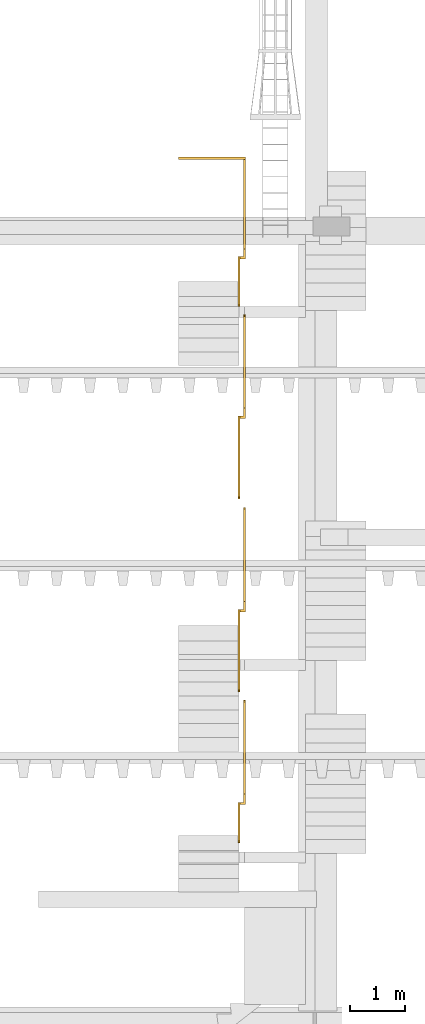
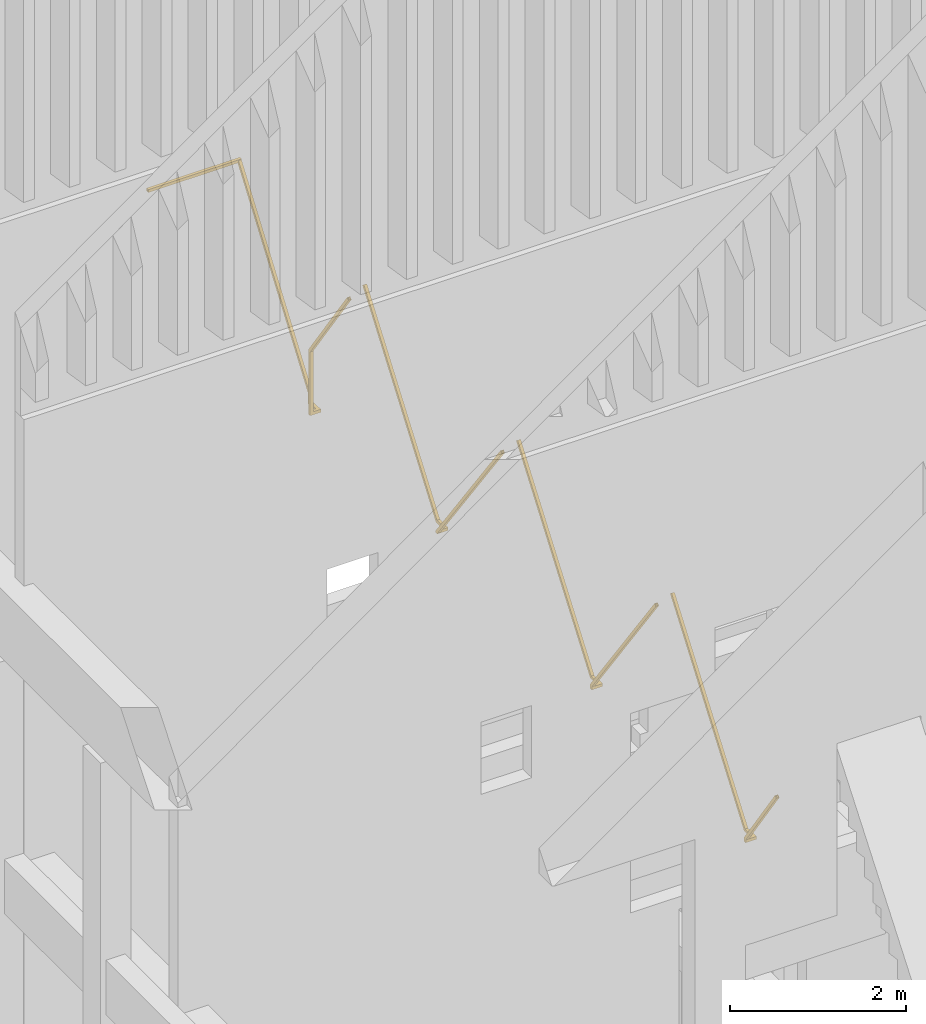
# One storey, part 6 of 15: 5 railings.
"""IFC2X3 building model written with IfcOpenShell, lengths in metres."""

from ifc_helpers import new_model, entity, si_unit, converted_unit, derived_unit, money_unit, direction, frame, origin_with_axes, place, context, subcontext, project, spatial, faceted_brep, material, type_object, element, save


model = new_model("IFC2X3")

# Units and contexts
model_context = context("Model", 3, precision=1e-05, world=origin_with_axes(), true_north=direction((0.0, 1.0)))
body_context = subcontext(model_context, "Body", "Model", "MODEL_VIEW", scale=1.0)
ifc_project = project(units=[si_unit("LENGTHUNIT", "METRE"), si_unit("AREAUNIT", "SQUARE_METRE"), si_unit("VOLUMEUNIT", "CUBIC_METRE"), si_unit("ABSORBEDDOSEUNIT", "GRAY"), si_unit("AMOUNTOFSUBSTANCEUNIT", "MOLE"), si_unit("DOSEEQUIVALENTUNIT", "SIEVERT"), si_unit("ELECTRICCAPACITANCEUNIT", "FARAD"), si_unit("ELECTRICCHARGEUNIT", "COULOMB"), si_unit("ELECTRICCONDUCTANCEUNIT", "SIEMENS"), si_unit("ELECTRICCURRENTUNIT", "AMPERE"), si_unit("ELECTRICRESISTANCEUNIT", "OHM"), si_unit("ELECTRICVOLTAGEUNIT", "VOLT"), si_unit("ENERGYUNIT", "JOULE"), si_unit("FORCEUNIT", "NEWTON"), si_unit("FREQUENCYUNIT", "HERTZ"), si_unit("ILLUMINANCEUNIT", "LUX"), si_unit("INDUCTANCEUNIT", "HENRY"), si_unit("LUMINOUSFLUXUNIT", "LUMEN"), si_unit("LUMINOUSINTENSITYUNIT", "CANDELA"), si_unit("MAGNETICFLUXDENSITYUNIT", "TESLA"), si_unit("MAGNETICFLUXUNIT", "WEBER"), si_unit("MASSUNIT", "GRAM"), converted_unit("PLANEANGLEUNIT", "degree", entity("IfcReal", 0.0174532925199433), si_unit("PLANEANGLEUNIT", "RADIAN"), dimensions=[0, 0, 0, 0, 0, 0, 0]), si_unit("POWERUNIT", "WATT"), si_unit("PRESSUREUNIT", "PASCAL"), si_unit("RADIOACTIVITYUNIT", "BECQUEREL"), si_unit("SOLIDANGLEUNIT", "STERADIAN"), si_unit("THERMODYNAMICTEMPERATUREUNIT", "KELVIN"), si_unit("TIMEUNIT", "SECOND"), derived_unit("ACCELERATIONUNIT", [(si_unit("LENGTHUNIT", "METRE"), 1), (si_unit("TIMEUNIT", "SECOND"), -2)]), derived_unit("ANGULARVELOCITYUNIT", [(converted_unit("PLANEANGLEUNIT", "degree", entity("IfcReal", 0.0174532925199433), si_unit("PLANEANGLEUNIT", "RADIAN"), dimensions=[0, 0, 0, 0, 0, 0, 0]), 1), (si_unit("TIMEUNIT", "SECOND"), -1)]), derived_unit("CURVATUREUNIT", [(converted_unit("PLANEANGLEUNIT", "degree", entity("IfcReal", 0.0174532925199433), si_unit("PLANEANGLEUNIT", "RADIAN"), dimensions=[0, 0, 0, 0, 0, 0, 0]), 1), (si_unit("LENGTHUNIT", "METRE"), -1)]), derived_unit("DYNAMICVISCOSITYUNIT", [(si_unit("PRESSUREUNIT", "PASCAL"), 1), (si_unit("TIMEUNIT", "SECOND"), 1)]), derived_unit("HEATFLUXDENSITYUNIT", [(si_unit("POWERUNIT", "WATT"), 1), (si_unit("LENGTHUNIT", "METRE"), -2)]), derived_unit("HEATINGVALUEUNIT", [(si_unit("ENERGYUNIT", "JOULE"), 1), (si_unit("MASSUNIT", "GRAM"), -1)]), derived_unit("INTEGERCOUNTRATEUNIT", [(si_unit("TIMEUNIT", "SECOND"), -1)]), derived_unit("IONCONCENTRATIONUNIT", [(si_unit("MASSUNIT", "GRAM"), 1), (si_unit("VOLUMEUNIT", "CUBIC_METRE"), -1)]), derived_unit("ISOTHERMALMOISTURECAPACITYUNIT", [(si_unit("VOLUMEUNIT", "CUBIC_METRE"), 1), (si_unit("MASSUNIT", "GRAM"), -1)]), derived_unit("KINEMATICVISCOSITYUNIT", [(si_unit("AREAUNIT", "SQUARE_METRE"), 1), (si_unit("TIMEUNIT", "SECOND"), -1)]), derived_unit("LINEARFORCEUNIT", [(si_unit("FORCEUNIT", "NEWTON"), 1), (si_unit("LENGTHUNIT", "METRE"), -1)]), derived_unit("LINEARMOMENTUNIT", [(si_unit("FORCEUNIT", "NEWTON"), 1), (si_unit("LENGTHUNIT", "METRE"), -1)]), derived_unit("LINEARSTIFFNESSUNIT", [(si_unit("FORCEUNIT", "NEWTON"), 1), (si_unit("LENGTHUNIT", "METRE"), -1)]), derived_unit("LINEARVELOCITYUNIT", [(si_unit("LENGTHUNIT", "METRE"), 1), (si_unit("TIMEUNIT", "SECOND"), -1)]), derived_unit("LUMINOUSINTENSITYDISTRIBUTIONUNIT", [(si_unit("LUMINOUSINTENSITYUNIT", "CANDELA"), 1), (si_unit("LUMINOUSFLUXUNIT", "LUMEN"), -1)]), derived_unit("MASSDENSITYUNIT", [(si_unit("MASSUNIT", "GRAM"), 1), (si_unit("VOLUMEUNIT", "CUBIC_METRE"), -1)]), derived_unit("MASSFLOWRATEUNIT", [(si_unit("MASSUNIT", "GRAM"), 1), (si_unit("TIMEUNIT", "SECOND"), -1)]), derived_unit("MASSPERLENGTHUNIT", [(si_unit("MASSUNIT", "GRAM"), 1), (si_unit("LENGTHUNIT", "METRE"), -1)]), derived_unit("MODULUSOFELASTICITYUNIT", [(si_unit("FORCEUNIT", "NEWTON"), 1), (si_unit("AREAUNIT", "SQUARE_METRE"), -1)]), derived_unit("MODULUSOFLINEARSUBGRADEREACTIONUNIT", [(si_unit("FORCEUNIT", "NEWTON"), 1), (si_unit("LENGTHUNIT", "METRE"), -2)]), derived_unit("MODULUSOFROTATIONALSUBGRADEREACTIONUNIT", [(si_unit("FORCEUNIT", "NEWTON"), 1), (si_unit("LENGTHUNIT", "METRE"), 1)]), derived_unit("MODULUSOFSUBGRADEREACTIONUNIT", [(si_unit("FORCEUNIT", "NEWTON"), 1), (si_unit("VOLUMEUNIT", "CUBIC_METRE"), -1)]), derived_unit("MOISTUREDIFFUSIVITYUNIT", [(si_unit("VOLUMEUNIT", "CUBIC_METRE"), 1), (si_unit("TIMEUNIT", "SECOND"), -1)]), derived_unit("MOLECULARWEIGHTUNIT", [(si_unit("MASSUNIT", "GRAM"), 1), (si_unit("AMOUNTOFSUBSTANCEUNIT", "MOLE"), -1)]), derived_unit("PLANARFORCEUNIT", [(si_unit("FORCEUNIT", "NEWTON"), 1), (si_unit("LENGTHUNIT", "METRE"), -2)]), derived_unit("ROTATIONALFREQUENCYUNIT", [(si_unit("TIMEUNIT", "SECOND"), -1)]), derived_unit("ROTATIONALMASSUNIT", [(si_unit("MASSUNIT", "GRAM"), 1), (si_unit("LENGTHUNIT", "METRE"), 2)]), derived_unit("ROTATIONALSTIFFNESSUNIT", [(si_unit("FORCEUNIT", "NEWTON"), 1), (si_unit("LENGTHUNIT", "METRE"), 1), (converted_unit("PLANEANGLEUNIT", "degree", entity("IfcReal", 0.0174532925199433), si_unit("PLANEANGLEUNIT", "RADIAN"), dimensions=[0, 0, 0, 0, 0, 0, 0]), -1)]), derived_unit("SECTIONAREAINTEGRALUNIT", [(si_unit("LENGTHUNIT", "METRE"), 5)]), derived_unit("SECTIONMODULUSUNIT", [(si_unit("LENGTHUNIT", "METRE"), 3)]), derived_unit("SHEARMODULUSUNIT", [(si_unit("FORCEUNIT", "NEWTON"), 1), (si_unit("AREAUNIT", "SQUARE_METRE"), -1)]), derived_unit("SOUNDPOWERUNIT", [(si_unit("ENERGYUNIT", "JOULE"), 1), (si_unit("TIMEUNIT", "SECOND"), -1)]), derived_unit("SPECIFICHEATCAPACITYUNIT", [(si_unit("FORCEUNIT", "NEWTON"), 1), (si_unit("MASSUNIT", "GRAM"), -1), (si_unit("THERMODYNAMICTEMPERATUREUNIT", "KELVIN"), -1)]), derived_unit("TEMPERATUREGRADIENTUNIT", [(si_unit("THERMODYNAMICTEMPERATUREUNIT", "KELVIN"), 1), (si_unit("LENGTHUNIT", "METRE"), -1)]), derived_unit("THERMALADMITTANCEUNIT", [(si_unit("POWERUNIT", "WATT"), 1), (si_unit("AREAUNIT", "SQUARE_METRE"), -1), (si_unit("THERMODYNAMICTEMPERATUREUNIT", "KELVIN"), -1)]), derived_unit("THERMALCONDUCTANCEUNIT", [(si_unit("POWERUNIT", "WATT"), 1), (si_unit("LENGTHUNIT", "METRE"), -1), (si_unit("THERMODYNAMICTEMPERATUREUNIT", "KELVIN"), -1)]), derived_unit("THERMALEXPANSIONCOEFFICIENTUNIT", [(si_unit("THERMODYNAMICTEMPERATUREUNIT", "KELVIN"), -1)]), derived_unit("THERMALRESISTANCEUNIT", [(si_unit("AREAUNIT", "SQUARE_METRE"), 1), (si_unit("POWERUNIT", "WATT"), -1)]), derived_unit("THERMALTRANSMITTANCEUNIT", [(si_unit("POWERUNIT", "WATT"), 1), (si_unit("AREAUNIT", "SQUARE_METRE"), -1), (si_unit("THERMODYNAMICTEMPERATUREUNIT", "KELVIN"), -1)]), derived_unit("TORQUEUNIT", [(si_unit("FORCEUNIT", "NEWTON"), 1), (si_unit("LENGTHUNIT", "METRE"), 1)]), derived_unit("VAPORPERMEABILITYUNIT", [(si_unit("MASSUNIT", "GRAM"), 1), (si_unit("TIMEUNIT", "SECOND"), -1)]), derived_unit("VOLUMETRICFLOWRATEUNIT", [(si_unit("VOLUMEUNIT", "CUBIC_METRE"), 1), (si_unit("TIMEUNIT", "SECOND"), -1)]), derived_unit("WARPINGCONSTANTUNIT", [(si_unit("LENGTHUNIT", "METRE"), 6)]), derived_unit("WARPINGMOMENTUNIT", [(si_unit("FORCEUNIT", "NEWTON"), 1), (si_unit("LENGTHUNIT", "METRE"), 2)]), money_unit("GBP")], contexts=[model_context])

# Site, building, storey
site_placement = place(None, origin_with_axes())
site = spatial("IfcSite", under=ifc_project, at=site_placement, Name="Site", CompositionType="ELEMENT")
building_placement = place(site_placement, origin_with_axes())
building = spatial("IfcBuilding", under=site, at=building_placement, Name="Building01", CompositionType="ELEMENT")
storey_placement = place(building_placement, origin_with_axes())
storey = spatial("IfcBuildingStorey", under=building, at=storey_placement, Name="GF", CompositionType="ELEMENT", Elevation=0.0)

# Railings
ifc_material = material(Name="A_BSUK_Steel_Miscellaneous")
railing_type_1 = type_object("IfcRailingType", Name="A-Handrail-900mm", PredefinedType="NOTDEFINED")
railing_1_placement = place(storey_placement, frame((7.55, 8.64, 14.609584), z_axis=(0.0, 1.0, 0.0), x_axis=(0.0, 0.0, 1.0)))
element("IfcRailing", 1, at=railing_1_placement, inside=storey, type_object=railing_type_1, material=ifc_material, Name="A-Handrail-900mm", ObjectType="A-Handrail-900mm", PredefinedType="HANDRAIL", context=body_context, shape_type="Brep", body=[
    faceted_brep([(-0.726206, -0.02, 0.312846), (-0.75, -0.02, 0.345), (-0.75, 0.02, 0.345), (-0.726206, 0.02, 0.312846), (-0.728586, -0.016, 0.316062), (-0.728586, 0.016, 0.316062), (-0.747621, 0.016, 0.341785), (-0.747621, -0.016, 0.341785), (0.023794, 0.02, 0.867846), (0.0, 0.02, 0.9), (0.0, -0.02, 0.9), (0.023794, -0.02, 0.867846), (0.021414, -0.016, 0.871062), (0.002379, -0.016, 0.896785), (0.002379, 0.016, 0.896785), (0.021414, 0.016, 0.871062)], [[[0, 1, 2, 3], [4, 5, 6, 7]], [[8, 9, 10, 11], [12, 13, 14, 15]], [[11, 0, 3, 8]], [[10, 1, 0, 11]], [[9, 2, 1, 10]], [[8, 3, 2, 9]], [[15, 5, 4, 12]], [[12, 4, 7, 13]], [[13, 7, 6, 14]], [[14, 6, 5, 15]]]),
    faceted_brep([(-1.476206, -0.02, -0.242154), (-1.5, -0.02, -0.21), (-1.5, 0.02, -0.21), (-1.476206, 0.02, -0.242154), (-1.478586, -0.016, -0.238938), (-1.478586, 0.016, -0.238938), (-1.497621, 0.016, -0.213215), (-1.497621, -0.016, -0.213215), (-0.726206, 0.02, 0.312846), (-0.75, 0.02, 0.345), (-0.75, -0.02, 0.345), (-0.726206, -0.02, 0.312846), (-0.728586, -0.016, 0.316062), (-0.747621, -0.016, 0.341785), (-0.747621, 0.016, 0.341785), (-0.728586, 0.016, 0.316062)], [[[0, 1, 2, 3], [4, 5, 6, 7]], [[8, 9, 10, 11], [12, 13, 14, 15]], [[11, 0, 3, 8]], [[10, 1, 0, 11]], [[9, 2, 1, 10]], [[8, 3, 2, 9]], [[15, 5, 4, 12]], [[12, 4, 7, 13]], [[13, 7, 6, 14]], [[14, 6, 5, 15]]]),
    faceted_brep([(-1.476206, 0.02, -0.242154), (-1.5, 0.02, -0.21), (-1.5, -0.02, -0.21), (-1.476206, -0.02, -0.242154), (-1.478586, -0.016, -0.238938), (-1.497621, -0.016, -0.213215), (-1.497621, 0.016, -0.213215), (-1.478586, 0.016, -0.238938), (-2.23, -0.02, -0.799961), (-2.23, 0.02, -0.799961), (-2.27, -0.02, -0.7798), (-2.27, 0.02, -0.7798), (-2.234, -0.016, -0.797945), (-2.234, 0.016, -0.797945), (-2.266, -0.016, -0.781816), (-2.266, 0.016, -0.781816)], [[[0, 1, 2, 3], [4, 5, 6, 7]], [[8, 9, 0, 3]], [[10, 8, 3, 2]], [[11, 10, 2, 1]], [[9, 11, 1, 0]], [[12, 4, 7, 13]], [[14, 5, 4, 12]], [[15, 6, 5, 14]], [[13, 7, 6, 15]], [[8, 10, 11, 9], [12, 13, 15, 14]]]),
    faceted_brep([(-2.27, 0.02, -0.7798), (-2.23, 0.02, -0.799961), (-2.23, 0.02, -0.99), (-2.27, 0.02, -0.99), (-2.23, -0.02, -0.95), (-2.23, -0.02, -0.799961), (-2.27, -0.02, -0.95), (-2.27, -0.02, -0.7798), (-2.234, 0.016, -0.986), (-2.234, 0.016, -0.797945), (-2.266, 0.016, -0.781816), (-2.266, 0.016, -0.986), (-2.234, -0.016, -0.954), (-2.234, -0.016, -0.797945), (-2.266, -0.016, -0.954), (-2.266, -0.016, -0.781816)], [[[0, 1, 2, 3]], [[4, 2, 1, 5]], [[6, 4, 5, 7]], [[3, 6, 7, 0]], [[8, 9, 10, 11]], [[12, 13, 9, 8]], [[14, 15, 13, 12]], [[11, 10, 15, 14]], [[0, 7, 5, 1], [10, 9, 13, 15]], [[2, 4, 6, 3], [8, 11, 14, 12]]]),
    faceted_brep([(-2.23, -0.08, -0.99), (-2.27, -0.12, -0.99), (-2.27, 0.02, -0.99), (-2.23, 0.02, -0.99), (-2.23, -0.08, -0.95), (-2.23, -0.02, -0.95), (-2.27, -0.12, -0.95), (-2.27, -0.02, -0.95), (-2.234, -0.084, -0.986), (-2.234, 0.016, -0.986), (-2.266, 0.016, -0.986), (-2.266, -0.116, -0.986), (-2.234, -0.084, -0.954), (-2.234, -0.016, -0.954), (-2.266, -0.116, -0.954), (-2.266, -0.016, -0.954)], [[[0, 1, 2, 3]], [[4, 0, 3, 5]], [[6, 4, 5, 7]], [[7, 2, 1, 6]], [[8, 9, 10, 11]], [[12, 13, 9, 8]], [[14, 15, 13, 12]], [[11, 10, 15, 14]], [[2, 7, 5, 3], [10, 9, 13, 15]], [[0, 4, 6, 1], [8, 11, 14, 12]]]),
    faceted_brep([(-2.224951, -0.08, -0.99), (-2.224951, -0.12, -0.99), (-2.27, -0.12, -0.99), (-2.23, -0.08, -0.99), (-2.21192, -0.08, -0.95), (-2.23, -0.08, -0.95), (-2.21192, -0.12, -0.95), (-2.27, -0.12, -0.95), (-2.223648, -0.084, -0.986), (-2.234, -0.084, -0.986), (-2.266, -0.116, -0.986), (-2.223648, -0.116, -0.986), (-2.213223, -0.084, -0.954), (-2.234, -0.084, -0.954), (-2.213223, -0.116, -0.954), (-2.266, -0.116, -0.954)], [[[0, 1, 2, 3]], [[4, 0, 3, 5]], [[6, 4, 5, 7]], [[1, 6, 7, 2]], [[8, 9, 10, 11]], [[12, 13, 9, 8]], [[14, 15, 13, 12]], [[11, 10, 15, 14]], [[2, 7, 5, 3], [10, 9, 13, 15]], [[0, 4, 6, 1], [8, 11, 14, 12]]]),
    faceted_brep([(-0.235481, -0.079988, -2.440102), (-0.21192, -0.079987, -2.407778), (-0.21192, -0.119987, -2.407778), (-0.235481, -0.119988, -2.440102), (-0.233125, -0.083988, -2.43687), (-0.233125, -0.115988, -2.43687), (-0.214276, -0.115987, -2.41101), (-0.214276, -0.083987, -2.41101), (-2.224951, -0.12, -0.99), (-2.224951, -0.08, -0.99), (-2.21192, -0.08, -0.95), (-2.21192, -0.12, -0.95), (-2.223648, -0.116, -0.986), (-2.223648, -0.084, -0.986), (-2.213223, -0.084, -0.954), (-2.213223, -0.116, -0.954)], [[[0, 1, 2, 3], [4, 5, 6, 7]], [[8, 9, 0, 3]], [[9, 10, 1, 0]], [[10, 11, 2, 1]], [[11, 8, 3, 2]], [[12, 5, 4, 13]], [[13, 4, 7, 14]], [[14, 7, 6, 15]], [[15, 6, 5, 12]], [[8, 11, 10, 9], [12, 13, 14, 15]]]),
])
railing_2_placement = place(storey_placement, frame((7.55, 14.98, 14.65313), z_axis=(0.0, 1.0, 0.0), x_axis=(0.0, 0.0, 1.0)))
element("IfcRailing", 2, at=railing_2_placement, inside=storey, type_object=railing_type_1, material=ifc_material, Name="A-Handrail-900mm", ObjectType="A-Handrail-900mm", PredefinedType="HANDRAIL", context=body_context, shape_type="Brep", body=[
    faceted_brep([(-0.726628, -0.02, 0.327539), (-0.75, -0.02, 0.36), (-0.75, 0.02, 0.36), (-0.726628, 0.02, 0.327539), (-0.728965, -0.016, 0.330785), (-0.728965, 0.016, 0.330785), (-0.747663, 0.016, 0.356754), (-0.747663, -0.016, 0.356754), (0.023372, 0.02, 0.867539), (0.0, 0.02, 0.9), (0.0, -0.02, 0.9), (0.023372, -0.02, 0.867539), (0.021035, -0.016, 0.870785), (0.002337, -0.016, 0.896754), (0.002337, 0.016, 0.896754), (0.021035, 0.016, 0.870785)], [[[0, 1, 2, 3], [4, 5, 6, 7]], [[8, 9, 10, 11], [12, 13, 14, 15]], [[11, 0, 3, 8]], [[10, 1, 0, 11]], [[9, 2, 1, 10]], [[8, 3, 2, 9]], [[15, 5, 4, 12]], [[12, 4, 7, 13]], [[13, 7, 6, 14]], [[14, 6, 5, 15]]]),
    faceted_brep([(-1.476628, -0.02, -0.212461), (-1.5, -0.02, -0.18), (-1.5, 0.02, -0.18), (-1.476628, 0.02, -0.212461), (-1.478965, -0.016, -0.209215), (-1.478965, 0.016, -0.209215), (-1.497663, 0.016, -0.183246), (-1.497663, -0.016, -0.183246), (-0.726628, 0.02, 0.327539), (-0.75, 0.02, 0.36), (-0.75, -0.02, 0.36), (-0.726628, -0.02, 0.327539), (-0.728965, -0.016, 0.330785), (-0.747663, -0.016, 0.356754), (-0.747663, 0.016, 0.356754), (-0.728965, 0.016, 0.330785)], [[[0, 1, 2, 3], [4, 5, 6, 7]], [[8, 9, 10, 11], [12, 13, 14, 15]], [[11, 0, 3, 8]], [[10, 1, 0, 11]], [[9, 2, 1, 10]], [[8, 3, 2, 9]], [[15, 5, 4, 12]], [[12, 4, 7, 13]], [[13, 7, 6, 14]], [[14, 6, 5, 15]]]),
    faceted_brep([(-1.476628, 0.02, -0.212461), (-1.5, 0.02, -0.18), (-1.5, -0.02, -0.18), (-1.476628, -0.02, -0.212461), (-1.478965, -0.016, -0.209215), (-1.497663, -0.016, -0.183246), (-1.497663, 0.016, -0.183246), (-1.478965, 0.016, -0.209215), (-2.237098, -0.02, -0.76), (-2.237098, 0.02, -0.76), (-2.25, -0.02, -0.72), (-2.25, 0.02, -0.72), (-2.238388, -0.016, -0.756), (-2.238388, 0.016, -0.756), (-2.24871, -0.016, -0.724), (-2.24871, 0.016, -0.724)], [[[0, 1, 2, 3], [4, 5, 6, 7]], [[8, 9, 0, 3]], [[10, 8, 3, 2]], [[11, 10, 2, 1]], [[9, 11, 1, 0]], [[12, 4, 7, 13]], [[14, 5, 4, 12]], [[15, 6, 5, 14]], [[13, 7, 6, 15]], [[8, 10, 11, 9], [12, 13, 15, 14]]]),
    faceted_brep([(-2.35233, -0.02, -0.76), (-2.35233, 0.02, -0.76), (-2.237098, 0.02, -0.76), (-2.237098, -0.02, -0.76), (-2.39233, -0.02, -0.72), (-2.25, -0.02, -0.72), (-2.25, 0.02, -0.72), (-2.39233, 0.02, -0.72), (-2.35633, -0.016, -0.756), (-2.238388, -0.016, -0.756), (-2.238388, 0.016, -0.756), (-2.35633, 0.016, -0.756), (-2.38833, -0.016, -0.724), (-2.24871, -0.016, -0.724), (-2.38833, 0.016, -0.724), (-2.24871, 0.016, -0.724)], [[[0, 1, 2, 3]], [[4, 0, 3, 5]], [[5, 6, 7, 4]], [[1, 7, 6, 2]], [[8, 9, 10, 11]], [[12, 13, 9, 8]], [[14, 15, 13, 12]], [[11, 10, 15, 14]], [[2, 6, 5, 3], [10, 9, 13, 15]], [[0, 4, 7, 1], [8, 11, 14, 12]]]),
    faceted_brep([(-2.39233, 0.02, -0.72), (-2.35233, 0.02, -0.76), (-2.35233, 0.02, -0.94), (-2.39233, 0.02, -0.94), (-2.35233, -0.02, -0.9), (-2.35233, -0.02, -0.76), (-2.39233, -0.02, -0.9), (-2.39233, -0.02, -0.72), (-2.35633, 0.016, -0.936), (-2.35633, 0.016, -0.756), (-2.38833, 0.016, -0.724), (-2.38833, 0.016, -0.936), (-2.35633, -0.016, -0.904), (-2.35633, -0.016, -0.756), (-2.38833, -0.016, -0.904), (-2.38833, -0.016, -0.724)], [[[0, 1, 2, 3]], [[4, 2, 1, 5]], [[6, 4, 5, 7]], [[3, 6, 7, 0]], [[8, 9, 10, 11]], [[12, 13, 9, 8]], [[14, 15, 13, 12]], [[11, 10, 15, 14]], [[0, 7, 5, 1], [10, 9, 13, 15]], [[2, 4, 6, 3], [8, 11, 14, 12]]]),
    faceted_brep([(-2.35233, -0.079237, -0.94), (-2.39233, -0.119237, -0.94), (-2.39233, 0.02, -0.94), (-2.35233, 0.02, -0.94), (-2.35233, -0.079237, -0.9), (-2.35233, -0.02, -0.9), (-2.39233, -0.119237, -0.9), (-2.39233, -0.02, -0.9), (-2.35633, -0.083237, -0.936), (-2.35633, 0.016, -0.936), (-2.38833, 0.016, -0.936), (-2.38833, -0.115237, -0.936), (-2.35633, -0.083237, -0.904), (-2.35633, -0.016, -0.904), (-2.38833, -0.115237, -0.904), (-2.38833, -0.016, -0.904)], [[[0, 1, 2, 3]], [[4, 0, 3, 5]], [[6, 4, 5, 7]], [[7, 2, 1, 6]], [[8, 9, 10, 11]], [[12, 13, 9, 8]], [[14, 15, 13, 12]], [[11, 10, 15, 14]], [[2, 7, 5, 3], [10, 9, 13, 15]], [[0, 4, 6, 1], [8, 11, 14, 12]]]),
    faceted_brep([(-1.50988, -0.079237, -0.94), (-1.50988, -0.119237, -0.94), (-2.39233, -0.119237, -0.94), (-2.35233, -0.079237, -0.94), (-1.497272, -0.079237, -0.9), (-2.35233, -0.079237, -0.9), (-2.39233, -0.119237, -0.9), (-1.497272, -0.119237, -0.9), (-1.50862, -0.083237, -0.936), (-2.35633, -0.083237, -0.936), (-2.38833, -0.115237, -0.936), (-1.50862, -0.115237, -0.936), (-1.498532, -0.083237, -0.904), (-2.35633, -0.083237, -0.904), (-1.498532, -0.115237, -0.904), (-2.38833, -0.115237, -0.904)], [[[0, 1, 2, 3]], [[4, 0, 3, 5]], [[5, 6, 7, 4]], [[1, 7, 6, 2]], [[8, 9, 10, 11]], [[12, 13, 9, 8]], [[14, 15, 13, 12]], [[11, 10, 15, 14]], [[2, 6, 5, 3], [10, 9, 13, 15]], [[0, 4, 7, 1], [8, 11, 14, 12]]]),
    faceted_brep([(-1.02021, -0.079237, -1.282769), (-0.997272, -0.079237, -1.25), (-0.997272, -0.119237, -1.25), (-1.02021, -0.119237, -1.282769), (-1.017916, -0.083237, -1.279492), (-1.017916, -0.115237, -1.279492), (-0.999565, -0.115237, -1.253277), (-0.999565, -0.083237, -1.253277), (-1.50988, -0.119237, -0.94), (-1.50988, -0.079237, -0.94), (-1.497272, -0.079237, -0.9), (-1.497272, -0.119237, -0.9), (-1.50862, -0.115237, -0.936), (-1.50862, -0.083237, -0.936), (-1.498532, -0.083237, -0.904), (-1.498532, -0.115237, -0.904)], [[[0, 1, 2, 3], [4, 5, 6, 7]], [[8, 9, 0, 3]], [[9, 10, 1, 0]], [[10, 11, 2, 1]], [[11, 8, 3, 2]], [[12, 5, 4, 13]], [[13, 4, 7, 14]], [[14, 7, 6, 15]], [[15, 6, 5, 12]], [[8, 11, 10, 9], [12, 13, 14, 15]]]),
    faceted_brep([(-0.27021, -0.079237, -1.807769), (-0.247272, -0.079237, -1.775), (-0.247272, -0.119237, -1.775), (-0.27021, -0.119237, -1.807769), (-0.267916, -0.083237, -1.804492), (-0.267916, -0.115237, -1.804492), (-0.249565, -0.115237, -1.778277), (-0.249565, -0.083237, -1.778277), (-1.02021, -0.119237, -1.282769), (-0.997272, -0.119237, -1.25), (-0.997272, -0.079237, -1.25), (-1.02021, -0.079237, -1.282769), (-1.017916, -0.083237, -1.279492), (-0.999565, -0.083237, -1.253277), (-0.999565, -0.115237, -1.253277), (-1.017916, -0.115237, -1.279492)], [[[0, 1, 2, 3], [4, 5, 6, 7]], [[8, 9, 10, 11], [12, 13, 14, 15]], [[11, 0, 3, 8]], [[10, 1, 0, 11]], [[9, 2, 1, 10]], [[8, 3, 2, 9]], [[15, 5, 4, 12]], [[12, 4, 7, 13]], [[13, 7, 6, 14]], [[14, 6, 5, 15]]]),
])
railing_3_placement = place(storey_placement, frame((7.55, 12.13, 14.647097), z_axis=(0.0, 1.0, 0.0), x_axis=(0.0, 0.0, 1.0)))
element("IfcRailing", 3, at=railing_3_placement, inside=storey, type_object=railing_type_1, material=ifc_material, Name="A-Handrail-900mm", ObjectType="A-Handrail-900mm", PredefinedType="HANDRAIL", context=body_context, shape_type="Brep", body=[
    faceted_brep([(0.023684, 0.021, 0.867765), (0.0, 0.021, 0.9), (0.0, -0.019, 0.9), (0.023684, -0.019, 0.867765), (0.021316, -0.015, 0.870989), (0.002368, -0.015, 0.896777), (0.002368, 0.017, 0.896777), (0.021316, 0.017, 0.870989), (-2.231, -0.019, -0.788834), (-2.231, 0.021, -0.788834), (-2.271, -0.019, -0.768587), (-2.271, 0.021, -0.768587), (-2.235, -0.015, -0.786809), (-2.235, 0.017, -0.786809), (-2.267, -0.015, -0.770612), (-2.267, 0.017, -0.770612)], [[[0, 1, 2, 3], [4, 5, 6, 7]], [[8, 9, 0, 3]], [[10, 8, 3, 2]], [[11, 10, 2, 1]], [[9, 11, 1, 0]], [[12, 4, 7, 13]], [[14, 5, 4, 12]], [[15, 6, 5, 14]], [[13, 7, 6, 15]], [[8, 10, 11, 9], [12, 13, 15, 14]]]),
    faceted_brep([(-2.271, 0.021, -0.768587), (-2.231, 0.021, -0.788834), (-2.231, 0.021, -0.976842), (-2.271, 0.021, -0.976842), (-2.231, -0.019, -0.936842), (-2.231, -0.019, -0.788834), (-2.271, -0.019, -0.936842), (-2.271, -0.019, -0.768587), (-2.235, 0.017, -0.972842), (-2.235, 0.017, -0.786809), (-2.267, 0.017, -0.770612), (-2.267, 0.017, -0.972842), (-2.235, -0.015, -0.940842), (-2.235, -0.015, -0.786809), (-2.267, -0.015, -0.940842), (-2.267, -0.015, -0.770612)], [[[0, 1, 2, 3]], [[4, 2, 1, 5]], [[6, 4, 5, 7]], [[3, 6, 7, 0]], [[8, 9, 10, 11]], [[12, 13, 9, 8]], [[14, 15, 13, 12]], [[11, 10, 15, 14]], [[0, 7, 5, 1], [10, 9, 13, 15]], [[2, 4, 6, 3], [8, 11, 14, 12]]]),
    faceted_brep([(-2.231, -0.081, -0.976842), (-2.271, -0.121, -0.976842), (-2.271, 0.021, -0.976842), (-2.231, 0.021, -0.976842), (-2.231, -0.081, -0.936842), (-2.231, -0.019, -0.936842), (-2.271, -0.121, -0.936842), (-2.271, -0.019, -0.936842), (-2.235, -0.085, -0.972842), (-2.235, 0.017, -0.972842), (-2.267, 0.017, -0.972842), (-2.267, -0.117, -0.972842), (-2.235, -0.085, -0.940842), (-2.235, -0.015, -0.940842), (-2.267, -0.117, -0.940842), (-2.267, -0.015, -0.940842)], [[[0, 1, 2, 3]], [[4, 0, 3, 5]], [[6, 4, 5, 7]], [[7, 2, 1, 6]], [[8, 9, 10, 11]], [[12, 13, 9, 8]], [[14, 15, 13, 12]], [[11, 10, 15, 14]], [[2, 7, 5, 3], [10, 9, 13, 15]], [[0, 4, 6, 1], [8, 11, 14, 12]]]),
    faceted_brep([(-2.263115, -0.121, -0.976842), (-2.263115, -0.113115, -0.976842), (-2.261804, -0.111804, -0.972842), (-2.261804, -0.117, -0.972842), (-2.251312, -0.117, -0.940842), (-2.251312, -0.101312, -0.940842), (-2.25, -0.1, -0.936842), (-2.25, -0.121, -0.936842), (-2.267, -0.117, -0.940842), (-2.267, -0.117, -0.972842), (-2.271, -0.121, -0.976842), (-2.271, -0.121, -0.936842)], [[[0, 1, 2, 3, 4, 5, 6, 7]], [[6, 5, 8, 9, 2, 1, 10, 11]], [[1, 0, 10]], [[6, 11, 7]], [[0, 7, 11, 10]], [[2, 9, 3]], [[4, 8, 5]], [[3, 9, 8, 4]]]),
    faceted_brep([(-2.023684, -0.081, -1.152761), (-2.0, -0.081, -1.120526), (-2.0, -0.121, -1.120526), (-2.023684, -0.121, -1.152761), (-2.021316, -0.085, -1.149537), (-2.021316, -0.117, -1.149537), (-2.002368, -0.117, -1.12375), (-2.002368, -0.085, -1.12375), (-2.263115, -0.121, -0.976842), (-2.263115, -0.081, -0.976842), (-2.25, -0.081, -0.936842), (-2.25, -0.121, -0.936842), (-2.261804, -0.117, -0.972842), (-2.261804, -0.085, -0.972842), (-2.251312, -0.085, -0.940842), (-2.251312, -0.117, -0.940842)], [[[0, 1, 2, 3], [4, 5, 6, 7]], [[8, 9, 0, 3]], [[9, 10, 1, 0]], [[10, 11, 2, 1]], [[11, 8, 3, 2]], [[12, 5, 4, 13]], [[13, 4, 7, 14]], [[14, 7, 6, 15]], [[15, 6, 5, 12]], [[8, 11, 10, 9], [12, 13, 14, 15]]]),
    faceted_brep([(-0.273684, -0.081, -2.43855), (-0.25, -0.081, -2.406316), (-0.25, -0.121, -2.406316), (-0.273684, -0.121, -2.43855), (-0.271316, -0.085, -2.435327), (-0.271316, -0.117, -2.435327), (-0.252368, -0.117, -2.409539), (-0.252368, -0.085, -2.409539), (-2.023684, -0.121, -1.152761), (-2.0, -0.121, -1.120526), (-2.0, -0.081, -1.120526), (-2.023684, -0.081, -1.152761), (-2.021316, -0.085, -1.149537), (-2.002368, -0.085, -1.12375), (-2.002368, -0.117, -1.12375), (-2.021316, -0.117, -1.149537)], [[[0, 1, 2, 3], [4, 5, 6, 7]], [[8, 9, 10, 11], [12, 13, 14, 15]], [[11, 0, 3, 8]], [[10, 1, 0, 11]], [[9, 2, 1, 10]], [[8, 3, 2, 9]], [[15, 5, 4, 12]], [[12, 4, 7, 13]], [[13, 7, 6, 14]], [[14, 6, 5, 15]]]),
])
railing_4_placement = place(storey_placement, frame((7.55, 5.15, 14.609584), z_axis=(0.0, 1.0, 0.0), x_axis=(0.0, 0.0, 1.0)))
element("IfcRailing", 4, at=railing_4_placement, inside=storey, type_object=railing_type_1, material=ifc_material, Name="A-Handrail-900mm", ObjectType="A-Handrail-900mm", PredefinedType="HANDRAIL", context=body_context, shape_type="Brep", body=[
    faceted_brep([(-0.726206, -0.02, 0.312846), (-0.75, -0.02, 0.345), (-0.75, 0.02, 0.345), (-0.726206, 0.02, 0.312846), (-0.728586, -0.016, 0.316062), (-0.728586, 0.016, 0.316062), (-0.747621, 0.016, 0.341785), (-0.747621, -0.016, 0.341785), (0.023794, 0.02, 0.867846), (0.0, 0.02, 0.9), (0.0, -0.02, 0.9), (0.023794, -0.02, 0.867846), (0.021414, -0.016, 0.871062), (0.002379, -0.016, 0.896785), (0.002379, 0.016, 0.896785), (0.021414, 0.016, 0.871062)], [[[0, 1, 2, 3], [4, 5, 6, 7]], [[8, 9, 10, 11], [12, 13, 14, 15]], [[11, 0, 3, 8]], [[10, 1, 0, 11]], [[9, 2, 1, 10]], [[8, 3, 2, 9]], [[15, 5, 4, 12]], [[12, 4, 7, 13]], [[13, 7, 6, 14]], [[14, 6, 5, 15]]]),
    faceted_brep([(-1.476206, -0.02, -0.242154), (-1.5, -0.02, -0.21), (-1.5, 0.02, -0.21), (-1.476206, 0.02, -0.242154), (-1.478586, -0.016, -0.238938), (-1.478586, 0.016, -0.238938), (-1.497621, 0.016, -0.213215), (-1.497621, -0.016, -0.213215), (-0.726206, 0.02, 0.312846), (-0.75, 0.02, 0.345), (-0.75, -0.02, 0.345), (-0.726206, -0.02, 0.312846), (-0.728586, -0.016, 0.316062), (-0.747621, -0.016, 0.341785), (-0.747621, 0.016, 0.341785), (-0.728586, 0.016, 0.316062)], [[[0, 1, 2, 3], [4, 5, 6, 7]], [[8, 9, 10, 11], [12, 13, 14, 15]], [[11, 0, 3, 8]], [[10, 1, 0, 11]], [[9, 2, 1, 10]], [[8, 3, 2, 9]], [[15, 5, 4, 12]], [[12, 4, 7, 13]], [[13, 7, 6, 14]], [[14, 6, 5, 15]]]),
    faceted_brep([(-1.476206, 0.02, -0.242154), (-1.5, 0.02, -0.21), (-1.5, -0.02, -0.21), (-1.476206, -0.02, -0.242154), (-1.478586, -0.016, -0.238938), (-1.497621, -0.016, -0.213215), (-1.497621, 0.016, -0.213215), (-1.478586, 0.016, -0.238938), (-2.23, -0.02, -0.799961), (-2.23, 0.02, -0.799961), (-2.27, -0.02, -0.7798), (-2.27, 0.02, -0.7798), (-2.234, -0.016, -0.797945), (-2.234, 0.016, -0.797945), (-2.266, -0.016, -0.781816), (-2.266, 0.016, -0.781816)], [[[0, 1, 2, 3], [4, 5, 6, 7]], [[8, 9, 0, 3]], [[10, 8, 3, 2]], [[11, 10, 2, 1]], [[9, 11, 1, 0]], [[12, 4, 7, 13]], [[14, 5, 4, 12]], [[15, 6, 5, 14]], [[13, 7, 6, 15]], [[8, 10, 11, 9], [12, 13, 15, 14]]]),
    faceted_brep([(-2.27, 0.02, -0.7798), (-2.23, 0.02, -0.799961), (-2.23, 0.02, -0.99), (-2.27, 0.02, -0.99), (-2.23, -0.02, -0.95), (-2.23, -0.02, -0.799961), (-2.27, -0.02, -0.95), (-2.27, -0.02, -0.7798), (-2.234, 0.016, -0.986), (-2.234, 0.016, -0.797945), (-2.266, 0.016, -0.781816), (-2.266, 0.016, -0.986), (-2.234, -0.016, -0.954), (-2.234, -0.016, -0.797945), (-2.266, -0.016, -0.954), (-2.266, -0.016, -0.781816)], [[[0, 1, 2, 3]], [[4, 2, 1, 5]], [[6, 4, 5, 7]], [[3, 6, 7, 0]], [[8, 9, 10, 11]], [[12, 13, 9, 8]], [[14, 15, 13, 12]], [[11, 10, 15, 14]], [[0, 7, 5, 1], [10, 9, 13, 15]], [[2, 4, 6, 3], [8, 11, 14, 12]]]),
    faceted_brep([(-2.23, -0.079981, -0.990001), (-2.27, -0.119981, -0.990002), (-2.27, 0.02, -0.99), (-2.23, 0.02, -0.99), (-2.23, -0.080019, -0.950001), (-2.23, -0.02, -0.95), (-2.27, -0.120019, -0.950002), (-2.27, -0.02, -0.95), (-2.234, -0.083985, -0.986001), (-2.234, 0.016, -0.986), (-2.266, 0.016, -0.986), (-2.266, -0.115985, -0.986001), (-2.234, -0.084015, -0.954001), (-2.234, -0.016, -0.954), (-2.266, -0.116015, -0.954001), (-2.266, -0.016, -0.954)], [[[0, 1, 2, 3]], [[4, 0, 3, 5]], [[6, 4, 5, 7]], [[1, 6, 7, 2]], [[8, 9, 10, 11]], [[12, 13, 9, 8]], [[14, 15, 13, 12]], [[11, 10, 15, 14]], [[2, 7, 5, 3], [10, 9, 13, 15]], [[0, 4, 6, 1], [8, 11, 14, 12]]]),
    faceted_brep([(-2.230669, -0.08065, -0.990019), (-2.230669, -0.12, -0.990019), (-2.270019, -0.12, -0.989983), (-2.218103, -0.08, -0.950031), (-2.230017, -0.08, -0.987943), (-2.229981, -0.08, -0.95002), (-2.218103, -0.12, -0.950031), (-2.269981, -0.12, -0.949983), (-2.229413, -0.084, -0.98602), (-2.234015, -0.084, -0.986016), (-2.266015, -0.116, -0.985987), (-2.229413, -0.116, -0.98602), (-2.219359, -0.084, -0.954029), (-2.233985, -0.084, -0.954016), (-2.21936, -0.116, -0.954029), (-2.265985, -0.116, -0.953987)], [[[0, 1, 2]], [[3, 4, 5]], [[6, 3, 5, 7]], [[1, 6, 7, 2]], [[8, 9, 10, 11]], [[12, 13, 9, 8]], [[14, 15, 13, 12]], [[11, 10, 15, 14]], [[4, 0, 2, 7, 5], [10, 9, 13, 15]], [[6, 1, 0, 4, 3], [8, 11, 14, 12]]]),
    faceted_brep([(-1.235486, -0.08002, -1.682666), (-1.212636, -0.08002, -1.649835), (-1.212636, -0.12002, -1.649835), (-1.235487, -0.12002, -1.682666), (-1.233201, -0.08402, -1.679383), (-1.233202, -0.11602, -1.679383), (-1.214921, -0.11602, -1.653118), (-1.214921, -0.08402, -1.653118), (-2.23067, -0.12, -0.990019), (-2.230669, -0.08, -0.990019), (-2.218103, -0.08, -0.95003), (-2.218103, -0.12, -0.950031), (-2.229413, -0.116, -0.98602), (-2.229412, -0.084, -0.98602), (-2.219359, -0.084, -0.954029), (-2.21936, -0.116, -0.95403)], [[[0, 1, 2, 3], [4, 5, 6, 7]], [[8, 9, 0, 3]], [[9, 10, 1, 0]], [[10, 11, 2, 1]], [[11, 8, 3, 2]], [[12, 5, 4, 13]], [[13, 4, 7, 14]], [[14, 7, 6, 15]], [[15, 6, 5, 12]], [[8, 11, 10, 9], [12, 13, 14, 15]]]),
])
railing_type_2 = type_object("IfcRailingType", Name="S-Handrail-900mm", PredefinedType="NOTDEFINED")
railing_5_placement = place(storey_placement, frame((7.57, 14.98, 14.756502), z_axis=(0.0, 1.0, 0.0), x_axis=(0.0, 0.0, 1.0)))
element("IfcRailing", 5, at=railing_5_placement, inside=storey, type_object=railing_type_2, material=ifc_material, Name="S-Handrail-900mm", ObjectType="S-Handrail-900mm", PredefinedType="HANDRAIL", context=body_context, shape_type="Brep", body=[
    faceted_brep([(-0.08, -1.22, 0.86), (-0.08, -1.22, 0.9), (-0.12, -1.22, 0.9), (-0.12, -1.22, 0.86), (-0.084, -1.22, 0.864), (-0.116, -1.22, 0.864), (-0.116, -1.22, 0.896), (-0.084, -1.22, 0.896), (-0.12, 0.0, 0.86), (-0.12, 0.0, 0.9), (-0.08, 0.0, 0.9), (-0.08, 0.0, 0.86), (-0.084, 0.0, 0.864), (-0.084, 0.0, 0.896), (-0.116, 0.0, 0.896), (-0.116, 0.0, 0.864)], [[[0, 1, 2, 3], [4, 5, 6, 7]], [[8, 9, 10, 11], [12, 13, 14, 15]], [[11, 0, 3, 8]], [[10, 1, 0, 11]], [[9, 2, 1, 10]], [[8, 3, 2, 9]], [[15, 5, 4, 12]], [[12, 4, 7, 13]], [[13, 7, 6, 14]], [[14, 6, 5, 15]]]),
])

save(model, "model.ifc")
